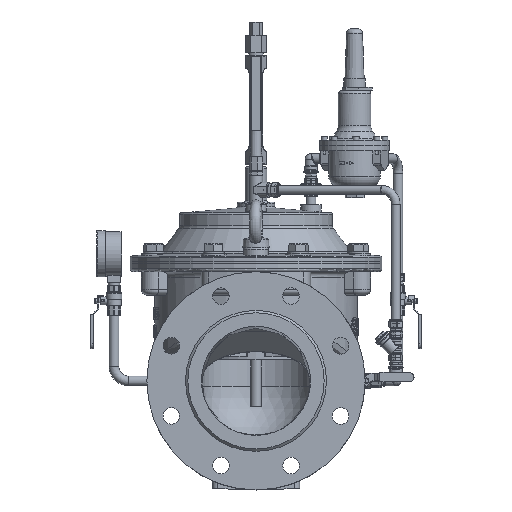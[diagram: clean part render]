
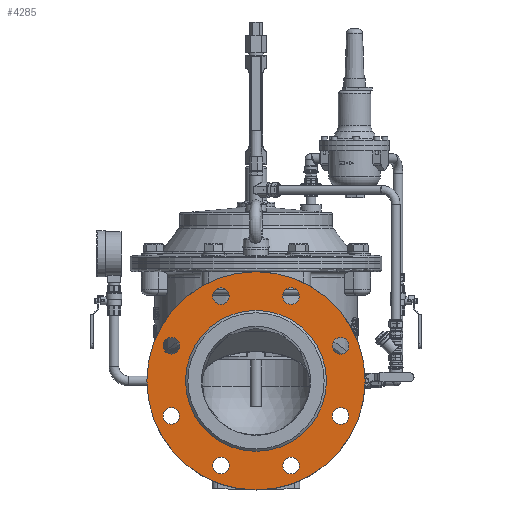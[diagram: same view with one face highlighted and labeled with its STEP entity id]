
A CAD part, left-side view. The second image highlights one B-rep face of the part: STEP entity #4285.
In plain terms, the highlighted planar face has unit normal (-1, 0, 0).
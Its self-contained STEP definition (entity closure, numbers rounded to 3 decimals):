
#4285=ADVANCED_FACE('',(#17484,#17486,#17488,#17490,#17492,#17494,#17496,#17498,
#17500,#17502),#17504,.F.);
#17484=FACE_BOUND('',#17485,.T.);
#17485=EDGE_LOOP('',(#40990));
#17486=FACE_BOUND('',#17487,.T.);
#17487=EDGE_LOOP('',(#40991));
#17488=FACE_BOUND('',#17489,.T.);
#17489=EDGE_LOOP('',(#40992));
#17490=FACE_BOUND('',#17491,.T.);
#17491=EDGE_LOOP('',(#40993));
#17492=FACE_BOUND('',#17493,.T.);
#17493=EDGE_LOOP('',(#40994));
#17494=FACE_BOUND('',#17495,.T.);
#17495=EDGE_LOOP('',(#40995));
#17496=FACE_BOUND('',#17497,.T.);
#17497=EDGE_LOOP('',(#40996));
#17498=FACE_BOUND('',#17499,.T.);
#17499=EDGE_LOOP('',(#40997));
#17500=FACE_BOUND('',#17501,.T.);
#17501=EDGE_LOOP('',(#40998));
#17502=FACE_BOUND('',#17503,.T.);
#17503=EDGE_LOOP('',(#40999));
#17504=PLANE('',#17505);
#17505=AXIS2_PLACEMENT_3D('',#17506,#17507,#17508);
#17506=CARTESIAN_POINT('',(-197.286,0.,0.));
#17507=DIRECTION('',(1.,0.,0.));
#17508=DIRECTION('',(0.,1.,0.));
#40990=ORIENTED_EDGE('',*,*,#48736,.F.);
#40991=ORIENTED_EDGE('',*,*,#48737,.T.);
#40992=ORIENTED_EDGE('',*,*,#48738,.T.);
#40993=ORIENTED_EDGE('',*,*,#48739,.T.);
#40994=ORIENTED_EDGE('',*,*,#48740,.T.);
#40995=ORIENTED_EDGE('',*,*,#48741,.T.);
#40996=ORIENTED_EDGE('',*,*,#48742,.T.);
#40997=ORIENTED_EDGE('',*,*,#48743,.T.);
#40998=ORIENTED_EDGE('',*,*,#48533,.F.);
#40999=ORIENTED_EDGE('',*,*,#48744,.T.);
#48533=EDGE_CURVE('',#53124,#53124,#53125,.T.);
#48736=EDGE_CURVE('',#53466,#53466,#53467,.T.);
#48737=EDGE_CURVE('',#53468,#53468,#53469,.T.);
#48738=EDGE_CURVE('',#53470,#53470,#53471,.T.);
#48739=EDGE_CURVE('',#53472,#53472,#53473,.T.);
#48740=EDGE_CURVE('',#53474,#53474,#53475,.T.);
#48741=EDGE_CURVE('',#53476,#53476,#53477,.T.);
#48742=EDGE_CURVE('',#53478,#53478,#53479,.T.);
#48743=EDGE_CURVE('',#53480,#53480,#53481,.T.);
#48744=EDGE_CURVE('',#53482,#53482,#53483,.T.);
#53124=VERTEX_POINT('',#68599);
#53125=CIRCLE('',#68600,80.714);
#53466=VERTEX_POINT('',#72967);
#53467=CIRCLE('',#72968,125.);
#53468=VERTEX_POINT('',#72972);
#53469=CIRCLE('',#72973,9.5);
#53470=VERTEX_POINT('',#72977);
#53471=CIRCLE('',#72978,9.5);
#53472=VERTEX_POINT('',#72982);
#53473=CIRCLE('',#72983,9.5);
#53474=VERTEX_POINT('',#72987);
#53475=CIRCLE('',#72988,9.5);
#53476=VERTEX_POINT('',#72992);
#53477=CIRCLE('',#72993,9.5);
#53478=VERTEX_POINT('',#72997);
#53479=CIRCLE('',#72998,9.5);
#53480=VERTEX_POINT('',#73002);
#53481=CIRCLE('',#73003,9.5);
#53482=VERTEX_POINT('',#73007);
#53483=CIRCLE('',#73008,9.5);
#68599=CARTESIAN_POINT('',(-197.286,-80.714,0.));
#68600=AXIS2_PLACEMENT_3D('',#68601,#68602,#68603);
#68601=CARTESIAN_POINT('',(-197.286,0.,0.));
#68602=DIRECTION('',(-1.,0.,0.));
#68603=DIRECTION('',(0.,-1.,0.));
#72967=CARTESIAN_POINT('',(-197.286,125.,0.));
#72968=AXIS2_PLACEMENT_3D('',#72969,#72970,#72971);
#72969=CARTESIAN_POINT('',(-197.286,0.,0.));
#72970=DIRECTION('',(1.,0.,0.));
#72971=DIRECTION('',(0.,1.,0.));
#72972=CARTESIAN_POINT('',(-197.286,46.899,103.725));
#72973=AXIS2_PLACEMENT_3D('',#72974,#72975,#72976);
#72974=CARTESIAN_POINT('',(-197.286,40.182,97.007));
#72975=DIRECTION('',(1.,0.,0.));
#72976=DIRECTION('',(0.,0.707,0.707));
#72977=CARTESIAN_POINT('',(-197.286,-40.182,106.507));
#72978=AXIS2_PLACEMENT_3D('',#72979,#72980,#72981);
#72979=CARTESIAN_POINT('',(-197.286,-40.182,97.007));
#72980=DIRECTION('',(1.,0.,0.));
#72981=DIRECTION('',(0.,0.,1.));
#72982=CARTESIAN_POINT('',(-197.286,-103.725,46.899));
#72983=AXIS2_PLACEMENT_3D('',#72984,#72985,#72986);
#72984=CARTESIAN_POINT('',(-197.286,-97.007,40.182));
#72985=DIRECTION('',(1.,0.,0.));
#72986=DIRECTION('',(0.,-0.707,0.707));
#72987=CARTESIAN_POINT('',(-197.286,-106.507,-40.182));
#72988=AXIS2_PLACEMENT_3D('',#72989,#72990,#72991);
#72989=CARTESIAN_POINT('',(-197.286,-97.007,-40.182));
#72990=DIRECTION('',(1.,0.,0.));
#72991=DIRECTION('',(0.,-1.,0.));
#72992=CARTESIAN_POINT('',(-197.286,-46.899,-103.725));
#72993=AXIS2_PLACEMENT_3D('',#72994,#72995,#72996);
#72994=CARTESIAN_POINT('',(-197.286,-40.182,-97.007));
#72995=DIRECTION('',(1.,0.,0.));
#72996=DIRECTION('',(0.,-0.707,-0.707));
#72997=CARTESIAN_POINT('',(-197.286,40.182,-106.507));
#72998=AXIS2_PLACEMENT_3D('',#72999,#73000,#73001);
#72999=CARTESIAN_POINT('',(-197.286,40.182,-97.007));
#73000=DIRECTION('',(1.,0.,0.));
#73001=DIRECTION('',(0.,0.,-1.));
#73002=CARTESIAN_POINT('',(-197.286,103.725,-46.899));
#73003=AXIS2_PLACEMENT_3D('',#73004,#73005,#73006);
#73004=CARTESIAN_POINT('',(-197.286,97.007,-40.182));
#73005=DIRECTION('',(1.,0.,0.));
#73006=DIRECTION('',(0.,0.707,-0.707));
#73007=CARTESIAN_POINT('',(-197.286,106.507,40.182));
#73008=AXIS2_PLACEMENT_3D('',#73009,#73010,#73011);
#73009=CARTESIAN_POINT('',(-197.286,97.007,40.182));
#73010=DIRECTION('',(1.,0.,0.));
#73011=DIRECTION('',(0.,1.,0.));
